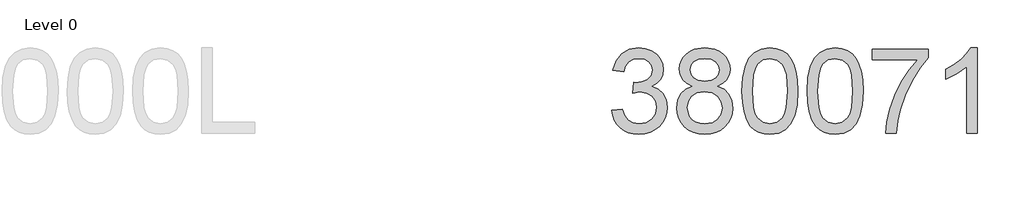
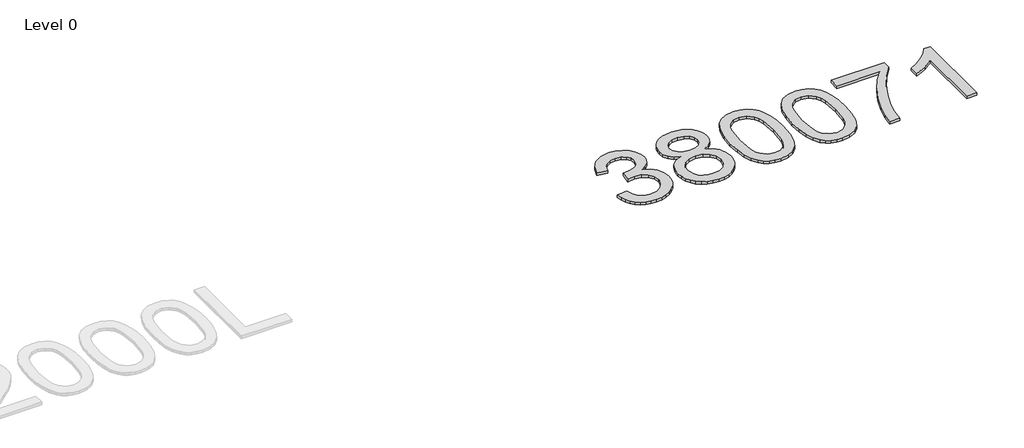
# One storey, part 19 of 37: 1 proxy.
"""IFC4 building model written with IfcOpenShell, lengths in millimetres."""

from ifc_helpers import new_model, si_unit, origin, origin_with_axes, place, context, project, spatial, polyline, outline, extrude, element, save

model = new_model("IFC4")

# Units and contexts
model_context = context("Model", 3, world=origin())
ifc_project = project(units=[si_unit("LENGTHUNIT", "METRE", prefix="MILLI")], contexts=[model_context])

# Site, building, storey
site = spatial("IfcSite", under=ifc_project)
building = spatial("IfcBuilding", under=site)
storey = spatial("IfcBuildingStorey", under=building, Name="Level 0", Elevation=0.0)

# Proxy
placement = place(None, origin())
element("IfcBuildingElementProxy", 1, Name="300mm Arial", ObjectType="300mm Arial", at=placement, inside=storey, context=model_context, shape_type="SweptSolid", body=[
    extrude(outline(polyline([(27688.7153576, -41620.925676), (27726.3864739, -41616.2167865), (27734.8201687, -41639.8899929), (27747.1718066, -41655.8744656), (27764.0483932, -41664.979545), (27786.0569335, -41668.0145714), (27811.8822496, -41663.8391108), (27831.8214537, -41651.3127288), (27844.5685649, -41632.6243235), (27848.8176019, -41609.9627926), (27844.6053531, -41588.4508929), (27831.9686065, -41571.0040893), (27812.8387428, -41559.4433976), (27789.1471423, -41555.5898337), (27762.733215, -41559.710112), (27766.9270698, -41522.0389957), (27772.9603345, -41522.4804541), (27795.5298949, -41519.7765215), (27815.7082223, -41511.6647235), (27829.9452556, -41497.942725), (27834.6909333, -41478.4081911), (27831.2512366, -41462.1386099), (27820.9321467, -41448.9408433), (27805.1867973, -41440.1944488), (27785.4683223, -41437.278984), (27765.7130592, -41440.22204), (27749.5630396, -41449.0512079), (27737.7724217, -41463.7664877), (27731.0953635, -41484.3678794), (27693.4242472, -41479.6589899), (27704.5158893, -41445.8322404), (27724.2527583, -41420.5771415), (27751.2552968, -41404.8501862), (27784.1439472, -41399.6078677), (27807.8263506, -41402.1922387), (27829.5773736, -41409.9453518), (27847.916291, -41422.1774281), (27861.362378, -41438.198689), (27869.6121317, -41456.6571681), (27872.3620496, -41476.2008991), (27869.7500874, -41494.4110579), (27861.9142009, -41510.9289595), (27848.9647547, -41525.0004458), (27831.0121133, -41535.8713587), (27854.5933492, -41545.3995024), (27872.067744, -41561.6230984), (27882.8834747, -41583.6592299), (27886.4887182, -41610.6249802), (27884.6860964, -41629.7364498), (27879.2782311, -41647.3396033), (27870.2651222, -41663.4344406), (27857.6467698, -41678.0209617), (27842.2739009, -41690.1242793), (27824.9972427, -41698.7695062), (27805.8167952, -41703.9566423), (27784.7325584, -41705.6856877), (27765.676271, -41704.2095612), (27748.3122408, -41699.7811817), (27732.6404678, -41692.4005492), (27718.660952, -41682.0676636), (27706.9393119, -41669.3895304), (27698.0411662, -41654.9731547), (27691.9665147, -41638.8185366), (27688.7153576, -41620.925676)])), origin_with_axes(), (0.0, 0.0, 1.0), 10.0),
    extrude(outline(polyline([(27974.3389387, -41534.988442), (27954.1698083, -41525.0556281), (27940.0155485, -41511.5911471), (27931.6554302, -41494.8709104), (27928.8687241, -41475.1708295), (27930.3862373, -41459.8071577), (27934.938777, -41445.7218758), (27942.5263431, -41432.9149839), (27953.1489357, -41421.3864818), (27966.2961185, -41411.8583382), (27981.4574553, -41405.0525213), (28017.8225905, -41399.6078677), (28054.4084549, -41405.18128), (28069.7353385, -41412.1480452), (28083.0848564, -41421.9015166), (28093.9005871, -41433.6553464), (28101.626109, -41446.6231867), (28106.2614221, -41460.8050376), (28107.8065265, -41476.2008991), (28105.0566086, -41495.2663835), (28096.8068549, -41511.7015117), (28082.9652948, -41525.0832192), (28063.4399579, -41534.988442), (28086.6257206, -41546.9354097), (28103.5023072, -41564.5293662), (28113.793806, -41586.9241826), (28117.2243056, -41613.2737305), (28115.5228514, -41632.0633034), (28110.4184887, -41649.2893779), (28101.9112175, -41664.9519538), (28090.001038, -41679.0510313), (28075.3133493, -41690.7036935), (28058.473551, -41699.0270236), (28039.481643, -41704.0210217), (28018.3376253, -41705.6856877), (27997.1936076, -41704.0141239), (27978.2016996, -41698.9994325), (27961.3619013, -41690.6416134), (27946.6742126, -41678.9406667), (27934.764033, -41664.7427209), (27926.2567619, -41648.8939047), (27921.1523992, -41631.3942181), (27919.450945, -41612.2436609), (27923.0194003, -41584.8732405), (27933.7247664, -41562.3588624), (27951.0152202, -41545.4730788), (27974.3389387, -41534.988442)]), holes=[polyline([(27966.5398404, -41476.2744755), (27969.8783695, -41492.7188007), (27979.8939568, -41505.8521879), (27996.2922967, -41514.4606266), (28018.7790837, -41517.3301062), (28040.7416388, -41514.4790207), (28056.8916584, -41505.9257643), (28066.8244723, -41493.2338355), (28070.1354102, -41477.9667327), (28066.7141077, -41462.1202158), (28056.4502, -41449.0144197), (28040.0794512, -41440.2128429), (28018.3376253, -41437.278984), (27996.4578436, -41440.1484636), (27980.114686, -41448.7569023), (27969.9335518, -41461.3752547), (27966.5398404, -41476.2744755)]), polyline([(27957.1220613, -41610.9192858), (27963.4128434, -41639.2829876), (27972.1224496, -41651.4506846), (27985.6697041, -41660.5097787), (28001.8933001, -41666.1383732), (28018.6319309, -41668.0145714), (28044.273306, -41664.069037), (28063.5135343, -41652.2324338), (28075.5432755, -41634.3073836), (28079.5531893, -41612.0965081), (28075.4145168, -41589.5085536), (28062.9984995, -41571.1880303), (28043.3168128, -41559.0479244), (28017.3811321, -41555.0012225), (27992.098442, -41558.9927421), (27973.0513517, -41570.9673011), (27961.1043839, -41588.9383365), (27957.1220613, -41610.9192858)])]), origin_with_axes(), (0.0, 0.0, 1.0), 10.0),
    extrude(outline(polyline([(28150.1865324, -41552.7203541), (28152.9548444, -41504.4818275), (28161.2597804, -41466.0105679), (28175.018567, -41436.717964), (28194.1484308, -41416.0154047), (28218.7873274, -41403.709752), (28249.0732127, -41399.6078677), (28272.2865666, -41402.0358889), (28293.0718993, -41409.3199524), (28310.4543236, -41421.1749497), (28323.4589521, -41437.3157722), (28333.2814014, -41457.6044643), (28341.1172879, -41481.9030701), (28346.2492417, -41512.7591724), (28347.959893, -41552.7203541), (28345.2191721, -41600.6829692), (28336.9970095, -41639.0622584), (28323.3209963, -41668.3824534), (28304.2187237, -41689.1677861), (28279.5246448, -41701.5562123), (28249.0732127, -41705.6856877), (28228.3246681, -41703.892263), (28209.9305684, -41698.5119888), (28193.8909134, -41689.5448652), (28180.2057032, -41676.9908921), (28167.0723159, -41654.2971715), (28157.6913251, -41626.0208417), (28152.0627305, -41592.1619025), (28150.1865324, -41552.7203541)]), holes=[polyline([(28187.8576487, -41552.6467777), (28192.2722326, -41611.9033701), (28197.7904625, -41632.1713688), (28205.5159844, -41646.1991691), (28225.2344594, -41662.5607208), (28249.0732127, -41668.0145714), (28272.911966, -41662.5423267), (28292.6304409, -41646.1255927), (28300.3559628, -41632.0747997), (28305.8741927, -41611.8113996), (28310.2887767, -41552.6467777), (28306.0213455, -41494.7237576), (28300.6870566, -41474.5224375), (28293.2190521, -41460.1612441), (28273.5373653, -41442.9995491), (28248.6317543, -41437.278984), (28225.0505184, -41442.3189674), (28206.1045956, -41457.4389174), (28198.1215563, -41473.0739022), (28192.4193854, -41494.1535405), (28187.8576487, -41552.6467777)])]), origin_with_axes(), (0.0, 0.0, 1.0), 10.0),
    extrude(outline(polyline([(28380.9221197, -41552.7203541), (28383.6904318, -41504.4818275), (28391.9953678, -41466.0105679), (28405.7541544, -41436.717964), (28424.8840182, -41416.0154047), (28449.5229148, -41403.709752), (28479.8088, -41399.6078677), (28503.0221539, -41402.0358889), (28523.8074867, -41409.3199524), (28541.1899109, -41421.1749497), (28554.1945395, -41437.3157722), (28564.0169887, -41457.6044643), (28571.8528752, -41481.9030701), (28576.9848291, -41512.7591724), (28578.6954803, -41552.7203541), (28575.9547595, -41600.6829692), (28567.7325969, -41639.0622584), (28554.0565837, -41668.3824534), (28534.9543111, -41689.1677861), (28510.2602322, -41701.5562123), (28479.8088, -41705.6856877), (28459.0602555, -41703.892263), (28440.6661558, -41698.5119888), (28424.6265008, -41689.5448652), (28410.9412905, -41676.9908921), (28397.8079033, -41654.2971715), (28388.4269124, -41626.0208417), (28382.7983179, -41592.1619025), (28380.9221197, -41552.7203541)]), holes=[polyline([(28418.593236, -41552.6467777), (28423.00782, -41611.9033701), (28428.5260499, -41632.1713688), (28436.2515718, -41646.1991691), (28455.9700468, -41662.5607208), (28479.8088, -41668.0145714), (28503.6475533, -41662.5423267), (28523.3660283, -41646.1255927), (28531.0915502, -41632.0747997), (28536.6097801, -41611.8113996), (28541.024364, -41552.6467777), (28536.7569329, -41494.7237576), (28531.422644, -41474.5224375), (28523.9546395, -41460.1612441), (28504.2729527, -41442.9995491), (28479.3673416, -41437.278984), (28455.7861058, -41442.3189674), (28436.840183, -41457.4389174), (28428.8571437, -41473.0739022), (28423.1549728, -41494.1535405), (28418.593236, -41552.6467777)])]), origin_with_axes(), (0.0, 0.0, 1.0), 10.0),
    extrude(outline(polyline([(28611.6577071, -41441.9878736), (28611.6577071, -41404.3167573), (28809.4310677, -41404.3167573), (28809.4310677, -41434.7773865), (28781.2421098, -41470.452743), (28753.3290635, -41515.82179), (28728.7085609, -41566.7458552), (28710.3972346, -41619.0862661), (28701.4209139, -41658.2473044), (28696.4177188, -41700.9767982), (28658.7466025, -41700.9767982), (28662.8208956, -41662.1468536), (28673.7193997, -41615.9960573), (28691.1478092, -41567.076949), (28714.8118186, -41519.9420684), (28742.4397564, -41477.3321363), (28771.7599514, -41441.9878736), (28611.6577071, -41441.9878736)])), origin_with_axes(), (0.0, 0.0, 1.0), 10.0),
    extrude(outline(polyline([(28983.6599806, -41700.9767982), (28945.9888643, -41700.9767982), (28945.9888643, -41466.1209325), (28910.3043108, -41491.5415783), (28870.6466317, -41510.5610775), (28870.6466317, -41474.9501003), (28900.2335412, -41458.8552631), (28925.8657192, -41439.7070052), (28946.0716378, -41419.3447368), (28959.379769, -41399.6078677), (28983.6599806, -41399.6078677), (28983.6599806, -41700.9767982)])), origin_with_axes(), (0.0, 0.0, 1.0), 10.0),
])

save(model, "model.ifc")
